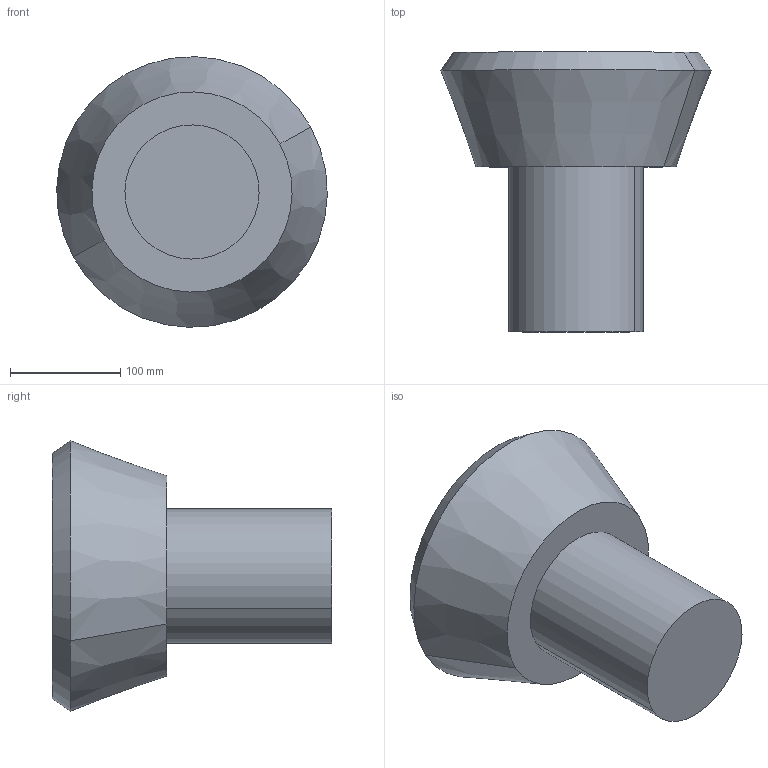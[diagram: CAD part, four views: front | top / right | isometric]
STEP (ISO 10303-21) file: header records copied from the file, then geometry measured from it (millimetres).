
FILE_DESCRIPTION(('CATIA V5 STEP Exchange'),'2;1');
FILE_NAME('C:\_Andres\UNIVERSIDAD\IQS\ASIGNATURAS\DAO\EXF\EXF-15161c\1original\Aloguín_Serramia_Ej09-optimiza_v1.stp','2016-03-04T21:55:26+00:00',('none'),('none'),'CATIA Version 5 Release 20 SP 1 (IN-10)','CATIA V5 STEP AP203','none');
FILE_SCHEMA(('CONFIG_CONTROL_DESIGN'));
Length unit declared in the file: millimetre
Products named in the file (1): Aloguín_Serramia_Ej09-optimiza_v1
Bounding box: 245.93 x 254.31 x 245.93 mm (x, y, z)
Volume: 5628981.2 mm3; surface area: 204623.4 mm2
Topology: 1 solids, 2 shells, 13 faces, 22 edges, 14 vertices
Faces by surface type: plane 5, cylinder 4, cone 4
Entity records: 324 total; most frequent: CARTESIAN_POINT 47, ORIENTED_EDGE 44, DIRECTION 42, AXIS2_PLACEMENT_3D 25, EDGE_CURVE 22, CIRCLE 14, EDGE_LOOP 14, VERTEX_POINT 14
